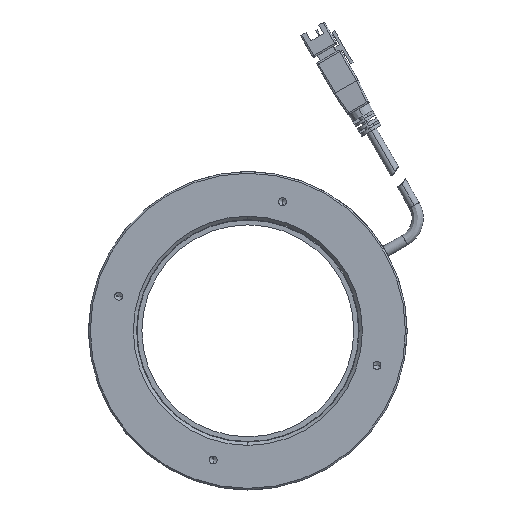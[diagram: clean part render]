
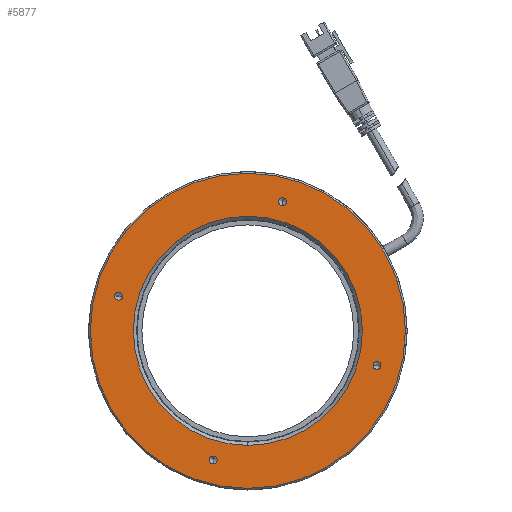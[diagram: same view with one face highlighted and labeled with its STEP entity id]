
A CAD part, front view. The second image highlights one B-rep face of the part: STEP entity #5877.
In plain terms, the highlighted planar face has unit normal (0, -1, 0).
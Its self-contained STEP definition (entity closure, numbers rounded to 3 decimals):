
#16 = DIRECTION ( 'NONE',  ( 1., 0., 0. ) ) ;
#101 = CARTESIAN_POINT ( 'NONE',  ( 0., 0., 0. ) ) ;
#160 = EDGE_LOOP ( 'NONE', ( #9205, #4834 ) ) ;
#209 = DIRECTION ( 'NONE',  ( 0., -1., 0. ) ) ;
#290 = AXIS2_PLACEMENT_3D ( 'NONE', #499, #4500, #6323 ) ;
#397 = DIRECTION ( 'NONE',  ( 0., -1., 0. ) ) ;
#484 = CARTESIAN_POINT ( 'NONE',  ( 10.87, 0., 40.569 ) ) ;
#499 = CARTESIAN_POINT ( 'NONE',  ( -10.87, 0., -40.569 ) ) ;
#633 = AXIS2_PLACEMENT_3D ( 'NONE', #11301, #9218, #8180 ) ;
#665 = EDGE_CURVE ( 'NONE', #3104, #5522, #11780, .T. ) ;
#798 = ORIENTED_EDGE ( 'NONE', *, *, #9461, .F. ) ;
#928 = AXIS2_PLACEMENT_3D ( 'NONE', #484, #4484, #10544 ) ;
#1041 = CIRCLE ( 'NONE', #2915, 1.25 ) ;
#1097 = VERTEX_POINT ( 'NONE', #10419 ) ;
#1099 = EDGE_CURVE ( 'NONE', #12450, #9248, #8668, .T. ) ;
#1116 = ORIENTED_EDGE ( 'NONE', *, *, #8016, .F. ) ;
#1124 = EDGE_LOOP ( 'NONE', ( #798, #3473 ) ) ;
#1147 = EDGE_CURVE ( 'NONE', #1097, #9504, #12197, .T. ) ;
#1150 = CARTESIAN_POINT ( 'NONE',  ( 0., 0., -36. ) ) ;
#1176 = DIRECTION ( 'NONE',  ( 0., -1., 0. ) ) ;
#1507 = CARTESIAN_POINT ( 'NONE',  ( 40.569, 0., -10.87 ) ) ;
#1575 = CARTESIAN_POINT ( 'NONE',  ( 0., 0., 0. ) ) ;
#1602 = FACE_BOUND ( 'NONE', #2970, .T. ) ;
#1699 = CARTESIAN_POINT ( 'NONE',  ( 10.87, 0., 39.319 ) ) ;
#1780 = VERTEX_POINT ( 'NONE', #4824 ) ;
#2079 = CARTESIAN_POINT ( 'NONE',  ( 0., 0., 36. ) ) ;
#2106 = EDGE_CURVE ( 'NONE', #9504, #1097, #6849, .T. ) ;
#2574 = FACE_BOUND ( 'NONE', #1124, .T. ) ;
#2586 = AXIS2_PLACEMENT_3D ( 'NONE', #4310, #12214, #5301 ) ;
#2594 = VERTEX_POINT ( 'NONE', #9746 ) ;
#2713 = ORIENTED_EDGE ( 'NONE', *, *, #6480, .F. ) ;
#2889 = DIRECTION ( 'NONE',  ( 0., 0., -1. ) ) ;
#2909 = AXIS2_PLACEMENT_3D ( 'NONE', #1507, #397, #10328 ) ;
#2915 = AXIS2_PLACEMENT_3D ( 'NONE', #4991, #1176, #16 ) ;
#2970 = EDGE_LOOP ( 'NONE', ( #7276, #7115 ) ) ;
#3095 = DIRECTION ( 'NONE',  ( 0., 0., -1. ) ) ;
#3104 = VERTEX_POINT ( 'NONE', #6361 ) ;
#3296 = FACE_BOUND ( 'NONE', #6885, .T. ) ;
#3433 = VERTEX_POINT ( 'NONE', #10582 ) ;
#3473 = ORIENTED_EDGE ( 'NONE', *, *, #1099, .F. ) ;
#3537 = CIRCLE ( 'NONE', #2909, 1.25 ) ;
#3615 = CARTESIAN_POINT ( 'NONE',  ( 0., 0., 0. ) ) ;
#3911 = ORIENTED_EDGE ( 'NONE', *, *, #8284, .F. ) ;
#4091 = DIRECTION ( 'NONE',  ( 0., -1., 0. ) ) ;
#4310 = CARTESIAN_POINT ( 'NONE',  ( -40.569, 0., 10.87 ) ) ;
#4484 = DIRECTION ( 'NONE',  ( 0., -1., 0. ) ) ;
#4500 = DIRECTION ( 'NONE',  ( 0., -1., 0. ) ) ;
#4824 = CARTESIAN_POINT ( 'NONE',  ( -39.319, 0., 10.87 ) ) ;
#4834 = ORIENTED_EDGE ( 'NONE', *, *, #1147, .T. ) ;
#4991 = CARTESIAN_POINT ( 'NONE',  ( 40.569, 0., -10.87 ) ) ;
#5073 = EDGE_LOOP ( 'NONE', ( #5576, #3911 ) ) ;
#5205 = CIRCLE ( 'NONE', #8119, 1.25 ) ;
#5301 = DIRECTION ( 'NONE',  ( -1., 0., 0. ) ) ;
#5343 = CARTESIAN_POINT ( 'NONE',  ( 10.87, 0., 41.819 ) ) ;
#5440 = CIRCLE ( 'NONE', #10441, 36. ) ;
#5522 = VERTEX_POINT ( 'NONE', #7845 ) ;
#5576 = ORIENTED_EDGE ( 'NONE', *, *, #6051, .F. ) ;
#5757 = DIRECTION ( 'NONE',  ( 0., 0., -1. ) ) ;
#5877 = ADVANCED_FACE ( 'NONE', ( #8416, #2574, #1602, #3296, #11341, #7300 ), #12391, .F. ) ;
#6051 = EDGE_CURVE ( 'NONE', #10110, #9836, #12091, .T. ) ;
#6244 = EDGE_LOOP ( 'NONE', ( #2713, #1116 ) ) ;
#6323 = DIRECTION ( 'NONE',  ( 0., 0., -1. ) ) ;
#6361 = CARTESIAN_POINT ( 'NONE',  ( -10.87, 0., -41.819 ) ) ;
#6480 = EDGE_CURVE ( 'NONE', #3433, #2594, #3537, .T. ) ;
#6564 = AXIS2_PLACEMENT_3D ( 'NONE', #3615, #6627, #2889 ) ;
#6627 = DIRECTION ( 'NONE',  ( 0., -1., 0. ) ) ;
#6849 = CIRCLE ( 'NONE', #8519, 49.5 ) ;
#6885 = EDGE_LOOP ( 'NONE', ( #6953, #10413 ) ) ;
#6939 = EDGE_CURVE ( 'NONE', #7116, #1780, #10226, .T. ) ;
#6953 = ORIENTED_EDGE ( 'NONE', *, *, #665, .F. ) ;
#6992 = DIRECTION ( 'NONE',  ( 0., -1., 0. ) ) ;
#7115 = ORIENTED_EDGE ( 'NONE', *, *, #12744, .F. ) ;
#7116 = VERTEX_POINT ( 'NONE', #9189 ) ;
#7276 = ORIENTED_EDGE ( 'NONE', *, *, #6939, .F. ) ;
#7300 = FACE_OUTER_BOUND ( 'NONE', #160, .T. ) ;
#7433 = DIRECTION ( 'NONE',  ( 0., 1., 0. ) ) ;
#7713 = CARTESIAN_POINT ( 'NONE',  ( -10.87, 0., -40.569 ) ) ;
#7845 = CARTESIAN_POINT ( 'NONE',  ( -10.87, 0., -39.319 ) ) ;
#8016 = EDGE_CURVE ( 'NONE', #2594, #3433, #1041, .T. ) ;
#8119 = AXIS2_PLACEMENT_3D ( 'NONE', #11112, #209, #11800 ) ;
#8180 = DIRECTION ( 'NONE',  ( -1., 0., 0. ) ) ;
#8284 = EDGE_CURVE ( 'NONE', #9836, #10110, #5440, .T. ) ;
#8350 = AXIS2_PLACEMENT_3D ( 'NONE', #101, #4091, #3095 ) ;
#8416 = FACE_BOUND ( 'NONE', #6244, .T. ) ;
#8519 = AXIS2_PLACEMENT_3D ( 'NONE', #1575, #10473, #11440 ) ;
#8668 = CIRCLE ( 'NONE', #928, 1.25 ) ;
#9082 = CIRCLE ( 'NONE', #2586, 1.25 ) ;
#9189 = CARTESIAN_POINT ( 'NONE',  ( -41.819, 0., 10.87 ) ) ;
#9205 = ORIENTED_EDGE ( 'NONE', *, *, #2106, .T. ) ;
#9218 = DIRECTION ( 'NONE',  ( 0., -1., 0. ) ) ;
#9248 = VERTEX_POINT ( 'NONE', #5343 ) ;
#9461 = EDGE_CURVE ( 'NONE', #9248, #12450, #5205, .T. ) ;
#9490 = CIRCLE ( 'NONE', #12401, 1.25 ) ;
#9504 = VERTEX_POINT ( 'NONE', #10129 ) ;
#9746 = CARTESIAN_POINT ( 'NONE',  ( 39.319, 0., -10.87 ) ) ;
#9836 = VERTEX_POINT ( 'NONE', #2079 ) ;
#10062 = DIRECTION ( 'NONE',  ( 0., 0., -1. ) ) ;
#10110 = VERTEX_POINT ( 'NONE', #1150 ) ;
#10129 = CARTESIAN_POINT ( 'NONE',  ( 0., 0., 49.5 ) ) ;
#10226 = CIRCLE ( 'NONE', #633, 1.25 ) ;
#10328 = DIRECTION ( 'NONE',  ( 1., 0., 0. ) ) ;
#10413 = ORIENTED_EDGE ( 'NONE', *, *, #12895, .F. ) ;
#10419 = CARTESIAN_POINT ( 'NONE',  ( 0., 0., -49.5 ) ) ;
#10441 = AXIS2_PLACEMENT_3D ( 'NONE', #12014, #6992, #10062 ) ;
#10473 = DIRECTION ( 'NONE',  ( 0., -1., 0. ) ) ;
#10544 = DIRECTION ( 'NONE',  ( 0., 0., 1. ) ) ;
#10582 = CARTESIAN_POINT ( 'NONE',  ( 41.819, 0., -10.87 ) ) ;
#11112 = CARTESIAN_POINT ( 'NONE',  ( 10.87, 0., 40.569 ) ) ;
#11283 = CARTESIAN_POINT ( 'NONE',  ( 0., 0., 0. ) ) ;
#11301 = CARTESIAN_POINT ( 'NONE',  ( -40.569, 0., 10.87 ) ) ;
#11341 = FACE_BOUND ( 'NONE', #5073, .T. ) ;
#11409 = DIRECTION ( 'NONE',  ( 0., 0., 1. ) ) ;
#11440 = DIRECTION ( 'NONE',  ( 0., 0., -1. ) ) ;
#11780 = CIRCLE ( 'NONE', #290, 1.25 ) ;
#11800 = DIRECTION ( 'NONE',  ( 0., 0., 1. ) ) ;
#12014 = CARTESIAN_POINT ( 'NONE',  ( 0., 0., 0. ) ) ;
#12091 = CIRCLE ( 'NONE', #8350, 36. ) ;
#12197 = CIRCLE ( 'NONE', #6564, 49.5 ) ;
#12214 = DIRECTION ( 'NONE',  ( 0., -1., 0. ) ) ;
#12289 = AXIS2_PLACEMENT_3D ( 'NONE', #11283, #7433, #11409 ) ;
#12391 = PLANE ( 'NONE',  #12289 ) ;
#12401 = AXIS2_PLACEMENT_3D ( 'NONE', #7713, #12803, #5757 ) ;
#12450 = VERTEX_POINT ( 'NONE', #1699 ) ;
#12744 = EDGE_CURVE ( 'NONE', #1780, #7116, #9082, .T. ) ;
#12803 = DIRECTION ( 'NONE',  ( 0., -1., 0. ) ) ;
#12895 = EDGE_CURVE ( 'NONE', #5522, #3104, #9490, .T. ) ;
